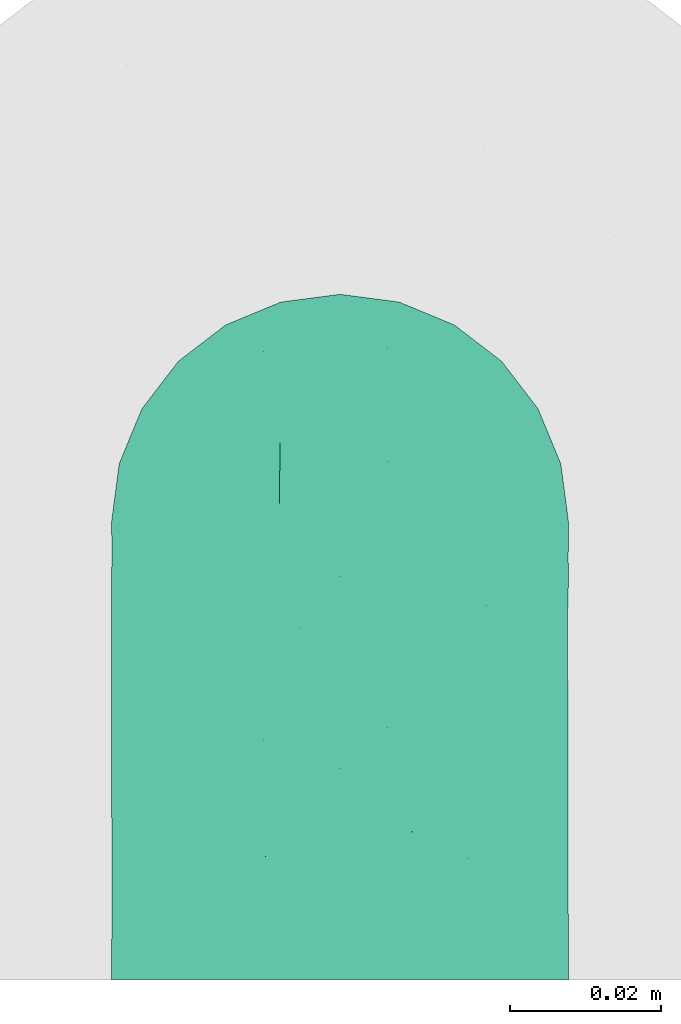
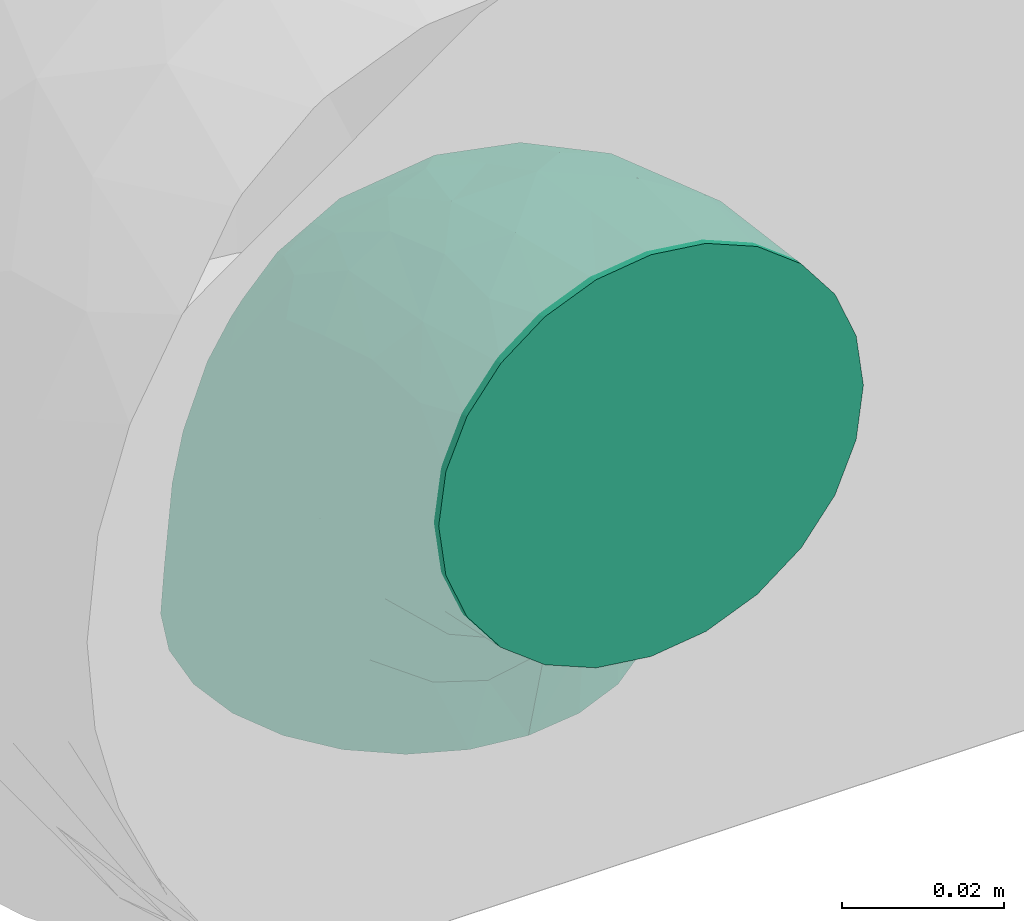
# One storey, part 2 of 2: 1 flow fitting.
"""IFC2X3 building model written with IfcOpenShell, lengths in millimetres."""

from ifc_helpers import new_model, entity, si_unit, converted_unit, derived_unit, direction, frame, origin_with_axes, place, context, subcontext, project, spatial, open_shell, surface_model, source, transform, mapped, type_object, element, save


model = new_model("IFC2X3")

# Units and contexts
model_context = context("Model", 3, precision=0.01, world=frame((0.0, 4.29681676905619e-09, 0.0)), true_north=direction((4.01073788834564e-13, 1.0)))
plan_context = context("Plan", 3, precision=0.01, world=frame((0.0, 4.29681676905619e-09, 0.0)), true_north=direction((4.01073788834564e-13, 1.0)))
body_context = subcontext(model_context, "Body", "Model", "MODEL_VIEW")
ifc_project = project(units=[converted_unit("PLANEANGLEUNIT", "DEGREE", entity("IfcPositiveLengthMeasure", 0.0174532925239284), si_unit("PLANEANGLEUNIT", "RADIAN"), dimensions=[0, 0, 0, 0, 0, 0, 0]), si_unit("AREAUNIT", "SQUARE_METRE"), si_unit("LENGTHUNIT", "METRE", prefix="MILLI"), si_unit("MASSUNIT", "GRAM", prefix="KILO"), si_unit("POWERUNIT", "WATT"), si_unit("PRESSUREUNIT", "PASCAL"), si_unit("FORCEUNIT", "NEWTON", prefix="KILO"), si_unit("ELECTRICVOLTAGEUNIT", "VOLT"), si_unit("ELECTRICCURRENTUNIT", "AMPERE"), si_unit("THERMODYNAMICTEMPERATUREUNIT", "DEGREE_CELSIUS"), si_unit("TIMEUNIT", "SECOND"), si_unit("VOLUMEUNIT", "CUBIC_METRE"), derived_unit("LINEARVELOCITYUNIT", [(si_unit("LENGTHUNIT", "METRE"), 1), (si_unit("TIMEUNIT", "SECOND"), -1)]), derived_unit("VOLUMETRICFLOWRATEUNIT", [(si_unit("VOLUMEUNIT", "CUBIC_METRE"), 1), (si_unit("TIMEUNIT", "SECOND"), -1)]), derived_unit("THERMALTRANSMITTANCEUNIT", [(si_unit("POWERUNIT", "WATT"), 1), (si_unit("THERMODYNAMICTEMPERATUREUNIT", "KELVIN"), -1), (si_unit("AREAUNIT", "SQUARE_METRE"), -1)]), derived_unit("SOUNDPRESSUREUNIT", [(si_unit("PRESSUREUNIT", "PASCAL"), 1)])], contexts=[model_context, plan_context])

# Site, building, storey
site_placement = place(None, frame((0.0, -4.29681676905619e-09, 0.0), z_axis=(0.0, 0.0, 1.0), x_axis=(1.0, 0.0, 0.0)))
site = spatial("IfcSite", under=ifc_project, at=site_placement, Name="ENGM", CompositionType="ELEMENT")
building_placement = place(site_placement, frame((0.0, 4.29681676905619e-09, 0.0), z_axis=(0.0, 0.0, 1.0), x_axis=(1.0, 0.0, 0.0)))
building = spatial("IfcBuilding", under=site, at=building_placement, Name="TI", CompositionType="ELEMENT")
storey_placement = place(building_placement, frame((0.0, 0.0, 203000.0), z_axis=(0.0, 0.0, 1.0), x_axis=(1.0, 0.0, 0.0)))
storey = spatial("IfcBuildingStorey", under=building, at=storey_placement, Name="Nivå C + 2,7 m", CompositionType="ELEMENT", Elevation=203000.0)

# Flow fitting
pipe_fitting_type = type_object("IfcPipeFittingType", Name="magi_pipe_fe_elbow_short_001", PredefinedType="BEND")
shared_shape = source(origin_with_axes(), body_context, "Body", "SurfaceModel", [
    surface_model("IfcShellBasedSurfaceModel", [(-60.4, 15.1, -26.15397), (-60.4, 7.81634, -29.17096), (-60.4, 0.0, -30.2), (-60.4, 21.35462, -21.35462), (-60.4, 26.15397, -15.1), (-60.4, -15.1, -26.15397), (-60.4, -21.35462, -21.35462), (-60.4, -7.81634, -29.17096), (-60.4, -26.15397, -15.1), (-60.4, -29.17096, -7.81634), (-60.4, 29.17096, -7.81634), (-60.4, -30.2, 0.0), (-60.4, -29.17096, 7.81634), (-60.4, 29.17096, 7.81634), (-60.4, -21.35462, 21.35462), (-60.4, 26.15397, 15.1), (-60.4, 21.35462, 21.35462), (-60.4, 7.81634, 29.17096), (-60.4, 15.1, 26.15397), (-60.4, -26.15397, 15.1), (-60.4, -7.81634, 29.17096), (-60.4, 0.0, 30.2), (-60.4, -15.1, 26.15397), (-60.4, 30.2, 0.0), (0.0, 60.4, -30.2), (-7.81634, 60.4, -29.17096), (-15.1, 60.4, -26.15397), (-26.15397, 60.4, -15.1), (-29.17096, 60.4, -7.81634), (-21.35462, 60.4, -21.35462), (29.17096, 60.4, -7.81634), (7.81634, 60.4, -29.17096), (21.35462, 60.4, -21.35462), (15.1, 60.4, -26.15397), (26.15397, 60.4, -15.1), (29.17096, 60.4, 7.81634), (30.2, 60.4, 0.0), (-29.17096, 60.4, 7.81634), (21.35462, 60.4, 21.35462), (-21.35462, 60.4, 21.35462), (-26.15397, 60.4, 15.1), (-15.1, 60.4, 26.15397), (-7.81634, 60.4, 29.17096), (26.15397, 60.4, 15.1), (15.1, 60.4, 26.15397), (0.0, 60.4, 30.2), (7.81634, 60.4, 29.17096), (-30.2, 60.4, 0.0), (-40.79975, -26.48639, 9.49143), (-44.2927, -23.46036, 16.95222), (-32.40306, -25.76572, 0.0), (-45.54716, -27.84754, 0.0), (-7.73382, -10.42985, 11.64553), (-2.102, -8.06735, 6.35117), (1.74449, -1.74448, 12.51332), (-46.13593, -4.00068, 29.68351), (-42.2898, 4.62925, 30.14853), (10.31662, 7.37496, 11.34434), (18.44156, 24.57514, 15.02148), (7.07276, 10.95732, 19.27498), (-30.06693, -0.27102, 29.27145), (-44.17726, -11.39441, 27.16031), (-23.4551, -7.13383, 25.24246), (-38.74025, -17.25266, 22.43475), (-27.059, -23.14697, 6.2131), (-19.77486, -19.33133, 0.0), (-10.95732, -7.07276, 19.27498), (-5.39458, 5.39458, 24.69106), (-29.52069, 48.20084, 13.12597), (-25.22813, 47.01796, 19.8404), (-11.27311, 52.093, 28.2877), (-4.13904, 45.17494, 30.12582), (-46.55352, 11.8443, 28.52822), (-7.88305, 20.22717, 29.65331), (-15.00576, 5.54025, 28.20072), (-3.0852, 16.31623, 27.75343), (-52.24998, 18.2886, 24.60768), (-10.49591, 29.69865, 30.14582), (-22.36958, 22.36958, 29.4662), (-17.98262, 13.19715, 30.04443), (-47.74519, 32.16745, 6.63994), (-48.21585, 29.51581, 13.12396), (-37.49729, 37.49729, 11.28901), (-47.20967, 25.1754, 19.81929), (17.25266, 38.74025, 22.43475), (-31.32046, 40.03273, 17.09289), (11.39441, 44.17725, 27.16031), (23.46036, 44.2927, 16.95222), (26.48639, 40.79975, 9.49143), (-7.14666, -12.89694, 0.0), (-14.66463, -16.61192, 7.82462), (4.00068, 46.13593, 29.68351), (-33.18602, 12.93608, 29.65955), (-29.63414, 7.40029, 30.18711), (19.33133, 19.77486, 0.0), (23.14697, 27.059, 6.2131), (16.61192, 14.66463, 7.82462), (27.84754, 45.54716, 0.0), (-32.10611, 20.49149, 27.93323), (-24.57514, -18.44156, 15.02148), (-21.89487, 39.03366, 25.38224), (-18.45005, 50.6405, 24.73297), (-31.78933, 48.71949, 6.47886), (-37.84917, 39.61073, 5.315), (13.91334, 24.32737, 20.46816), (7.13383, 23.4551, 25.24246), (-34.24603, 45.3, 0.0), (-27.95749, 31.89166, 24.81537), (-41.58677, 20.50028, 25.43151), (-0.46157, 0.46157, 17.84239), (-17.23338, 31.26213, 29.03145), (-24.05994, 29.23812, 27.47858), (-13.06094, 40.92174, 28.76128), (-31.83392, 33.72702, 21.39203), (-38.78737, 32.45032, 16.84022), (0.27102, 30.06693, 29.27145), (-24.21469, -13.23741, 21.05734), (8.23548, 2.19333, 6.02161), (25.76572, 32.40306, 0.0), (12.89694, 7.14666, 0.0), (-45.3, 34.24603, 0.0), (2.87514, -2.87514, 0.0), (-44.53432, 26.00869, -20.11577), (-48.18822, 29.5248, -13.12766), (-24.67192, -7.62159, -25.33714), (-26.22398, -0.37671, -28.72374), (-12.13397, -0.50536, -24.74577), (-47.80891, 3.81859, -30.10171), (-44.05719, -27.03585, -9.84546), (-37.94552, -22.39569, -16.35738), (-28.81663, -22.64668, -10.132), (-43.93799, 12.32789, -28.63778), (-33.27, 7.1392, -30.19348), (-26.0087, 44.53432, -20.11577), (-48.89164, 31.68872, -6.60822), (-18.95522, 47.41145, -24.9828), (-12.32789, 43.93799, -28.63778), (-38.42778, 38.42778, -7.21049), (18.04263, 43.69152, -22.80146), (10.42233, 38.24532, -26.85918), (11.90576, 51.00473, -27.48545), (-5.88381, -10.62327, -7.95335), (-5.9694, -7.83116, -13.76182), (3.24899, -2.56331, -7.96861), (-17.62229, 16.32998, -30.18286), (-28.62959, 17.86952, -29.30113), (-47.41145, 18.95522, -24.98279), (-50.84455, -24.04089, -17.54629), (-29.38053, 34.30665, -22.74674), (-27.91099, 27.91099, -26.51666), (-36.91219, 25.51094, -23.99233), (2.63361, -0.55507, -12.94367), (-43.69152, -18.04263, -22.80146), (22.39569, 37.94552, -16.35738), (27.03585, 44.05719, -9.84546), (22.64668, 28.81663, -10.132), (-51.00473, -11.90576, -27.48545), (3.80785, 44.49426, -29.64782), (-19.0921, -14.69952, -16.47487), (-22.5489, -12.31934, -21.1263), (-10.94772, -7.46239, -18.88204), (-32.95885, -13.78948, -23.71249), (-38.24532, -10.42233, -26.85918), (-44.49427, -3.80785, -29.64782), (-22.6301, 37.15314, -25.58239), (-31.68872, 48.89164, -6.60822), (-3.8186, 47.80891, -30.10171), (-10.66133, 10.66133, -28.51691), (0.37671, 26.22398, -28.72374), (1.27136, 14.18619, -25.18541), (-29.5248, 48.18821, -13.12766), (-36.27113, 36.27113, -14.88553), (24.04089, 50.84455, -17.54629), (17.50188, 24.2636, -16.21902), (9.73525, 11.44907, -16.75087), (12.31934, 22.5489, -21.1263), (6.24176, 25.78208, -26.38266), (-7.1392, 33.27, -30.19348), (-36.7166, 19.4356, -27.21946), (-18.00754, 29.38864, -29.15505), (-0.28629, 0.28629, -17.49884), (-13.98848, -16.88492, -5.19509), (15.48569, 15.00432, -11.24742), (16.88492, 13.98848, -5.19509), (3.55782, 9.20508, -21.18402), (-15.00432, -15.48569, -11.24742)], [open_shell([[[0, 1, 2]], [[3, 0, 4]], [[5, 6, 7]], [[6, 2, 7]], [[8, 9, 6]], [[0, 2, 6]], [[4, 0, 6]], [[10, 4, 6]], [[6, 9, 10]], [[11, 12, 9]], [[13, 10, 9]], [[13, 9, 14]], [[15, 13, 16]], [[17, 18, 16]], [[13, 17, 16]], [[17, 13, 14]], [[19, 14, 12]], [[12, 14, 9]], [[20, 21, 22]], [[17, 14, 22]], [[17, 22, 21]], [[13, 23, 10]], [[24, 25, 26]], [[24, 26, 27]], [[27, 28, 24]], [[27, 26, 29]], [[24, 28, 30]], [[31, 32, 33]], [[31, 24, 32]], [[32, 30, 34]], [[24, 30, 32]], [[30, 35, 36]], [[30, 28, 37]], [[38, 30, 37]], [[39, 37, 40]], [[39, 41, 42]], [[39, 42, 37]], [[38, 37, 42]], [[35, 38, 43]], [[30, 38, 35]], [[44, 45, 46]], [[44, 38, 42]], [[45, 44, 42]], [[28, 47, 37]], [[48, 49, 19]], [[50, 48, 51]], [[52, 53, 54]], [[12, 48, 19]], [[12, 51, 48]], [[21, 55, 56]], [[19, 49, 14]], [[57, 58, 59]], [[60, 61, 62]], [[63, 22, 14]], [[63, 61, 22]], [[64, 50, 65]], [[62, 66, 67]], [[40, 68, 69]], [[42, 70, 71]], [[17, 72, 18]], [[73, 74, 75]], [[18, 76, 16]], [[20, 55, 21]], [[77, 78, 79]], [[80, 81, 82]], [[15, 83, 81]], [[84, 38, 44]], [[23, 13, 80]], [[13, 15, 81]], [[68, 85, 69]], [[83, 15, 16]], [[21, 56, 17]], [[44, 86, 84]], [[16, 76, 83]], [[87, 58, 88]], [[40, 37, 68]], [[89, 90, 65]], [[45, 91, 46]], [[65, 90, 64]], [[45, 42, 71]], [[92, 93, 79]], [[88, 35, 43]], [[43, 38, 87]], [[87, 88, 43]], [[94, 95, 96]], [[88, 97, 35]], [[98, 72, 92]], [[49, 99, 63]], [[69, 100, 101]], [[82, 102, 103]], [[104, 105, 59]], [[106, 102, 47]], [[98, 107, 108]], [[102, 82, 68]], [[86, 44, 46]], [[69, 39, 40]], [[109, 54, 57]], [[110, 100, 111]], [[22, 61, 20]], [[101, 41, 39]], [[70, 42, 41]], [[112, 77, 71]], [[84, 86, 105]], [[96, 95, 58]], [[100, 69, 113]], [[72, 17, 56]], [[108, 113, 83]], [[81, 114, 82]], [[112, 110, 77]], [[91, 71, 115]], [[62, 61, 63]], [[55, 61, 60]], [[116, 99, 66]], [[74, 62, 67]], [[91, 86, 46]], [[105, 86, 115]], [[75, 105, 115]], [[109, 67, 66]], [[59, 105, 67]], [[48, 64, 99]], [[99, 49, 48]], [[63, 14, 49]], [[38, 84, 87]], [[58, 87, 84]], [[92, 72, 56]], [[76, 72, 108]], [[102, 68, 37]], [[82, 114, 85]], [[98, 111, 107]], [[112, 70, 101]], [[114, 83, 113]], [[82, 103, 80]], [[92, 79, 78]], [[115, 71, 77]], [[74, 79, 60]], [[77, 79, 73]], [[71, 91, 45]], [[86, 91, 115]], [[61, 55, 20]], [[56, 55, 60]], [[57, 54, 117]], [[104, 59, 58]], [[116, 66, 62]], [[52, 99, 90]], [[12, 11, 51]], [[97, 88, 118]], [[97, 36, 35]], [[53, 90, 89]], [[90, 53, 52]], [[94, 96, 119]], [[88, 95, 118]], [[117, 54, 53]], [[92, 56, 93]], [[98, 92, 78]], [[111, 98, 78]], [[72, 98, 108]], [[110, 111, 78]], [[107, 111, 100]], [[47, 102, 37]], [[102, 106, 103]], [[106, 120, 103]], [[103, 120, 80]], [[23, 80, 120]], [[13, 81, 80]], [[56, 60, 93]], [[60, 79, 93]], [[117, 121, 119]], [[121, 117, 53]], [[53, 89, 121]], [[119, 96, 117]], [[117, 96, 57]], [[77, 110, 78]], [[100, 110, 112]], [[83, 114, 81]], [[85, 114, 113]], [[69, 85, 113]], [[82, 85, 68]], [[109, 52, 54]], [[99, 52, 66]], [[69, 101, 39]], [[112, 101, 100]], [[100, 113, 107]], [[108, 107, 113]], [[62, 74, 60]], [[75, 74, 67]], [[105, 75, 67]], [[73, 75, 115]], [[77, 73, 115]], [[74, 73, 79]], [[99, 64, 90]], [[50, 64, 48]], [[118, 95, 94]], [[58, 95, 88]], [[58, 57, 96]], [[109, 57, 59]], [[72, 76, 18]], [[83, 76, 108]], [[101, 70, 41]], [[71, 70, 112]], [[58, 84, 104]], [[105, 104, 84]], [[67, 109, 59]], [[52, 109, 66]], [[62, 63, 116]], [[99, 116, 63]], [[122, 4, 123]], [[124, 125, 126]], [[2, 1, 127]], [[128, 129, 130]], [[127, 131, 132]], [[27, 29, 133]], [[120, 134, 23]], [[135, 26, 136]], [[123, 134, 137]], [[138, 139, 140]], [[122, 3, 4]], [[141, 142, 143]], [[144, 132, 145]], [[131, 0, 146]], [[128, 8, 147]], [[148, 149, 150]], [[128, 51, 9]], [[142, 151, 143]], [[152, 6, 5]], [[153, 154, 155]], [[156, 152, 5]], [[31, 157, 24]], [[158, 159, 160]], [[147, 8, 6]], [[129, 152, 161]], [[156, 5, 7]], [[162, 163, 125]], [[154, 34, 30]], [[120, 106, 137]], [[149, 148, 164]], [[47, 28, 165]], [[163, 7, 2]], [[4, 10, 123]], [[25, 166, 136]], [[167, 168, 169]], [[170, 133, 171]], [[25, 24, 166]], [[33, 32, 138]], [[157, 31, 140]], [[28, 27, 170]], [[32, 34, 172]], [[26, 135, 29]], [[132, 131, 145]], [[31, 33, 140]], [[173, 174, 175]], [[169, 168, 176]], [[25, 136, 26]], [[175, 138, 173]], [[168, 177, 157]], [[163, 162, 156]], [[153, 172, 154]], [[8, 128, 9]], [[154, 97, 118]], [[131, 178, 145]], [[0, 3, 146]], [[175, 139, 138]], [[155, 118, 94]], [[131, 1, 0]], [[146, 178, 131]], [[170, 137, 165]], [[149, 179, 145]], [[171, 133, 148]], [[160, 180, 142]], [[65, 181, 89]], [[170, 165, 28]], [[137, 171, 123]], [[172, 138, 32]], [[138, 153, 173]], [[168, 157, 139]], [[166, 157, 177]], [[176, 175, 169]], [[168, 167, 144]], [[154, 30, 97]], [[155, 182, 173]], [[162, 124, 161]], [[147, 152, 129]], [[127, 163, 2]], [[132, 144, 125]], [[132, 125, 163]], [[125, 167, 126]], [[129, 158, 130]], [[30, 36, 97]], [[143, 182, 183]], [[169, 126, 167]], [[3, 122, 146]], [[178, 150, 149]], [[136, 179, 164]], [[133, 29, 135]], [[123, 10, 134]], [[122, 123, 171]], [[133, 170, 27]], [[137, 170, 171]], [[184, 175, 174]], [[180, 160, 126]], [[126, 169, 184]], [[126, 159, 124]], [[51, 128, 50]], [[51, 11, 9]], [[131, 127, 1]], [[163, 127, 132]], [[157, 166, 24]], [[136, 166, 177]], [[164, 179, 149]], [[144, 167, 125]], [[179, 144, 145]], [[168, 144, 177]], [[136, 177, 179]], [[144, 179, 177]], [[141, 121, 89]], [[89, 181, 141]], [[154, 118, 155]], [[183, 155, 94]], [[143, 183, 119]], [[119, 183, 94]], [[155, 183, 182]], [[181, 130, 185]], [[50, 128, 130]], [[130, 181, 65]], [[50, 130, 65]], [[141, 181, 185]], [[142, 141, 185]], [[143, 121, 141]], [[158, 160, 142]], [[142, 180, 151]], [[158, 142, 185]], [[126, 160, 159]], [[130, 158, 185]], [[129, 159, 158]], [[23, 134, 10]], [[120, 137, 134]], [[137, 106, 165]], [[47, 165, 106]], [[174, 151, 180]], [[182, 143, 151]], [[150, 146, 122]], [[149, 145, 178]], [[146, 150, 178]], [[122, 171, 148]], [[148, 150, 122]], [[164, 133, 135]], [[133, 164, 148]], [[164, 135, 136]], [[138, 140, 33]], [[157, 140, 139]], [[154, 172, 34]], [[138, 172, 153]], [[163, 156, 7]], [[152, 156, 162]], [[152, 147, 6]], [[128, 147, 129]], [[155, 173, 153]], [[174, 173, 182]], [[151, 174, 182]], [[174, 180, 184]], [[126, 184, 180]], [[175, 184, 169]], [[168, 139, 176]], [[175, 176, 139]], [[161, 124, 159]], [[125, 124, 162]], [[129, 161, 159]], [[162, 161, 152]], [[143, 119, 121]]])]),
])
flow_fitting_placement = place(storey_placement, frame((608617.36825, 698746.21699, 6915.24411), z_axis=(1.0, 0.0, 0.0), x_axis=(0.0, 0.0, 1.0)))
element("IfcFlowFitting", 1, at=flow_fitting_placement, inside=storey, type_object=pipe_fitting_type, Name="magi_pipe_fe_elbow_short_001", context=body_context, shape_type="MappedRepresentation", body=[
    mapped(shared_shape, transform((0.0, 0.0, 0.0), scale=1.0)),
])

save(model, "model.ifc")
